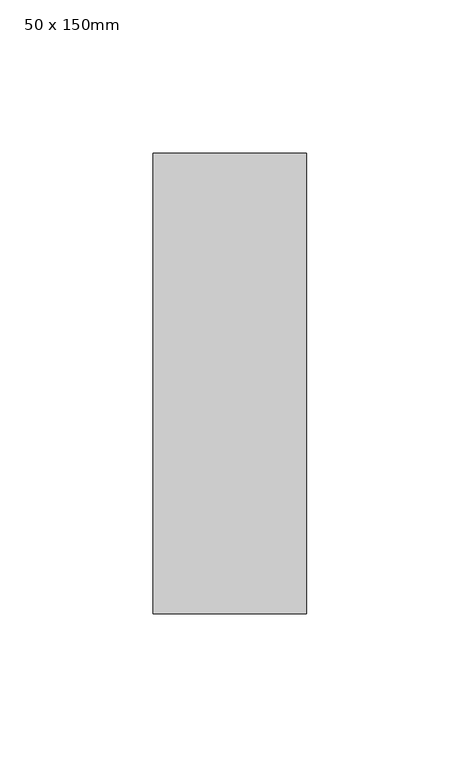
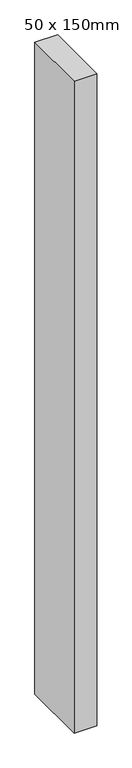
"""IFC4 building model written with IfcOpenShell, lengths in millimetres: member geometry, 矩形豎框 : 50 x 150mm."""

from ifc_helpers import new_model, si_unit, frame, origin, place, context, project, spatial, polyline, outline, extrude, source, transform, mapped, element, save


def member_50_x_150mm_3bafebb8(model_context):
    return source(origin(), model_context, "Body", "SweptSolid", [
        extrude(outline(polyline([(0.0, 75.0), (0.0, -75.0), (-50.0, -75.0), (-50.0, 75.0), (0.0, 75.0)])), frame((0.0, 0.0, -1522.5000002), z_axis=(0.0, 0.0, 1.0), x_axis=(1.0, 0.0, 0.0)), (0.0, 0.0, 1.0), 1522.5000002),
    ])


if __name__ == "__main__":
    model = new_model("IFC4")
    model_context = context("Model", 3, world=origin())
    ifc_project = project(units=[si_unit("LENGTHUNIT", "METRE", prefix="MILLI")], contexts=[model_context])
    site = spatial("IfcSite", under=ifc_project)
    building = spatial("IfcBuilding", under=site)
    placement = place(None, origin())
    member_50_x_150mm_shape = member_50_x_150mm_3bafebb8(model_context)
    element("IfcMember", 1, ObjectType="矩形豎框 : 50 x 150mm", at=placement, inside=building, context=model_context, shape_type="MappedRepresentation", body=[
        mapped(member_50_x_150mm_shape, transform((0.0, 0.0, 0.0), x_axis=(1.0, 0.0, 0.0), y_axis=(0.0, 1.0, 0.0), z_axis=(0.0, 0.0, 1.0))),
    ])
    save(model, "model.ifc")
